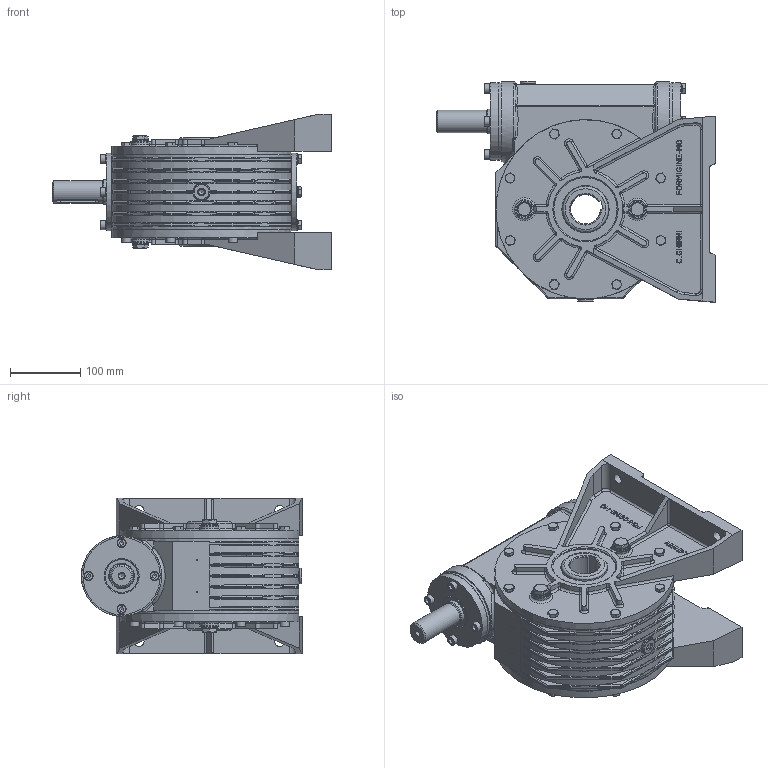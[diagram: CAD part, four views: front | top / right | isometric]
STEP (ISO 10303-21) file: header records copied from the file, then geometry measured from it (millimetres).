
FILE_DESCRIPTION((''),'2;1');
FILE_NAME('Y:\Archivi Inventor\Prog_01\GRAND_60\FIGURINI\MRV60 sito\RV60\RV----60---P3---------------3D.stp','2013-03-28T08:11:38',('tech3'),(''),'Autodesk Inventor 2013','Autodesk Inventor 2013','');
FILE_SCHEMA(('AUTOMOTIVE_DESIGN { 1 0 10303 214 1 1 1 1 }'));
Length unit declared in the file: millimetre
Products named in the file (19): RV----60---P3---------------3D; MRV60_FIG; 0106001.A0 figurino; 0106010.A0 figurino; 0106009; UNI 5739 M8 x 20; figurino corona; PARAOLIO 65x90x10; 0106028; 0106029; UNI 5739 M8 x 25; Guarnizione 3_8 GAS; Tappo3_8 GAS; Tappo 3_8 GAS_esagn_incsst; DIN EN ISO 4762 M8 x 16; UNI 8839 A 8; 0106012; 0106011.A0 figurino; PARAOLIO 35x47x8
Assembly tree (54 placements, depth 3):
  RV----60---P3---------------3D
    MRV60_FIG
      0106001.A0 figurino
      0106010.A0 figurino  x2
      0106009
      UNI 5739 M8 x 20  x4
      figurino corona
      PARAOLIO 65x90x10  x2
      0106028
      0106029  x2
      UNI 5739 M8 x 25  x8
      Guarnizione 3_8 GAS  x6
      Tappo3_8 GAS  x4
      Tappo 3_8 GAS_esagn_incsst  x2
      DIN EN ISO 4762 M8 x 16  x12
      UNI 8839 A 8  x4
    0106012
    0106011.A0 figurino
    PARAOLIO 35x47x8
Bounding box: 397 x 314.5 x 221.7 mm (x, y, z)
Volume: 8960105.9 mm3; surface area: 957292.2 mm2
Topology: 53 solids, 57 shells, 2239 faces, 5479 edges, 3384 vertices
Faces by surface type: plane 840, cylinder 540, bspline 532, cone 156, torus 127, sphere 44
Full cylindrical faces by diameter (mm): 2 x2, 6.647 x24, 8 x26, 8.376 x1, 8.5 x36, 8.75 x8, 11.63 x12, 13 x12, 13.046 x4, 14 x4, 14.95 x6, 16.3 x6, 16.5 x2, 22 x12, 25 x6, 31.4 x1, 32 x1, 35 x1, 39.605 x1, 42 x1, 43.5 x1, 47 x2, 65 x1, 67 x1, 72.881 x2, 80 x5, 83.5 x2, 90 x5, 109.5 x1, 110 x4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
Entity records: 43522 total; most frequent: CARTESIAN_POINT 15343, ORIENTED_EDGE 5656, DIRECTION 5105, EDGE_CURVE 2828, AXIS2_PLACEMENT_3D 1981, VERTEX_POINT 1853, EDGE_LOOP 1549, FACE_OUTER_BOUND 1244
